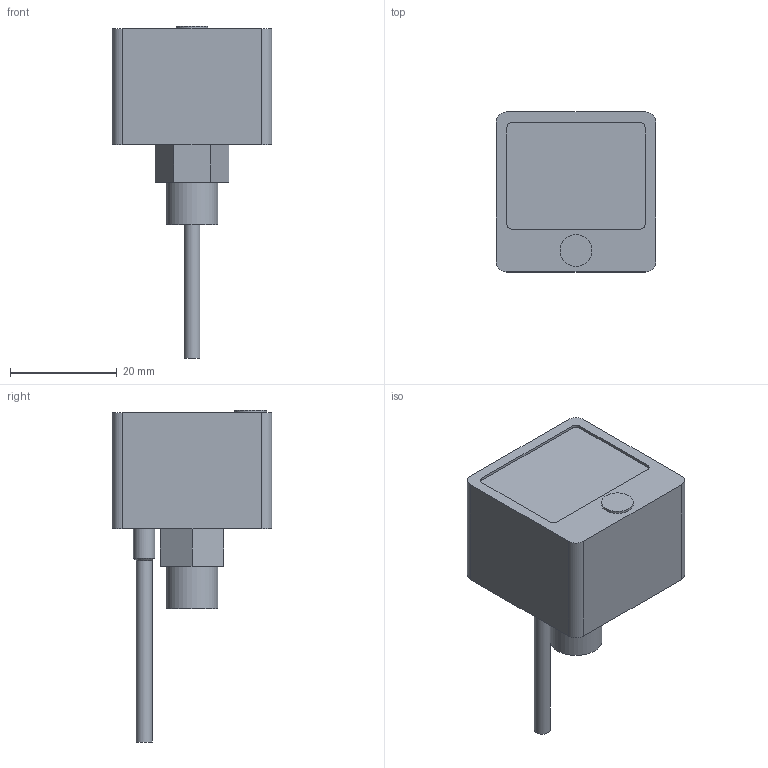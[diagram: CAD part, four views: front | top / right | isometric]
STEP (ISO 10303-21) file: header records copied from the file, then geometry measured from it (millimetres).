
FILE_DESCRIPTION(/* description */ ('VACUOMETRO DIGITALE 0/-1000 kPa CAVO 2mt SENZA CONN.'),/* implementation_level */ '2;1');
FILE_NAME(/* name */ 'C:\PNX_VAULTFOLDER\Area Tecnica\Disegni\VARIE-3D\Componenti\1900 (vuoto)\DS_61_V_I_F1_D_0.stp',/* time_stamp */ '2019-09-16T09:44:03+02:00',/* author */ ('maniean1'),/* organization */ ('Pneumax S.p.A.'),/* preprocessor_version */ 'ST-DEVELOPER v17',/* originating_system */ 'Autodesk Inventor 2019',/* authorisation */ '');
FILE_SCHEMA (('AUTOMOTIVE_DESIGN { 1 0 10303 214 3 1 1 }'));
Length unit declared in the file: millimetre
Products named in the file (1): DS.61.V.I.F1.D.0
Bounding box: 30 x 30 x 62.3 mm (x, y, z)
Volume: 20920.5 mm3; surface area: 5472 mm2
Topology: 1 solids, 1 shells, 38 faces, 89 edges, 60 vertices
Faces by surface type: plane 23, cylinder 14, cone 1
Full cylindrical faces by diameter (mm): 3 x1, 4 x1, 4.134 x2, 6 x1, 9.728 x1
Entity records: 1140 total; most frequent: DIRECTION 199, CARTESIAN_POINT 188, ORIENTED_EDGE 178, EDGE_CURVE 89, AXIS2_PLACEMENT_3D 71, VERTEX_POINT 60, LINE 57, VECTOR 57
